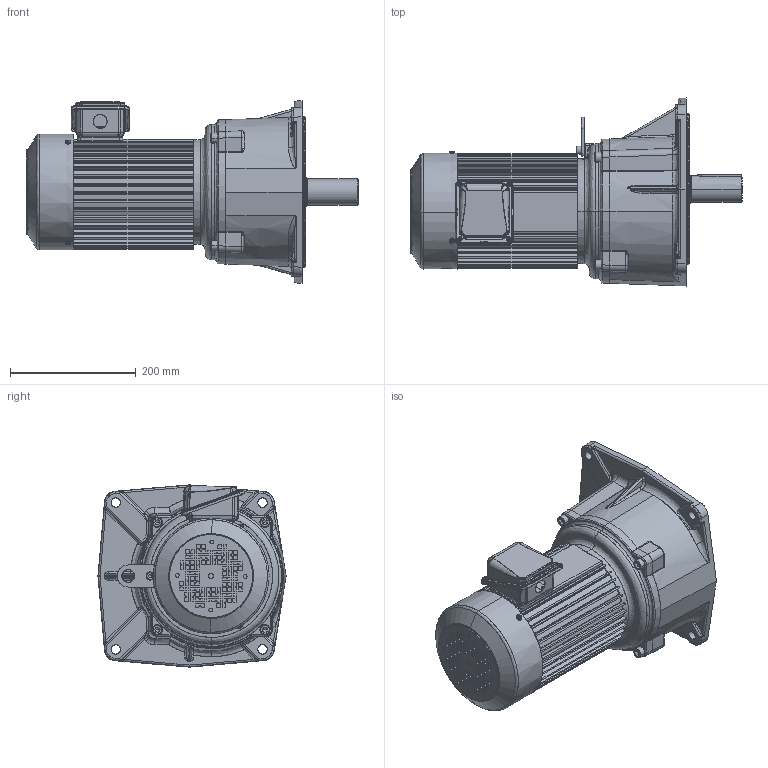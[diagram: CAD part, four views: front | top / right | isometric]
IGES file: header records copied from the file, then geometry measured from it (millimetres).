
Start section: SolidWorks IGES file using analytic representation for surfaces
Global section: file name: \\100.100.100.8\1_共有作業フォルダ\1-5_３Ｄデータ\solidworks\personal-folder\H.Nagayama\SGP1外形075~370\P1(3D)_075~370\igs\TMF2-15E-(30~80).IGS; native system: SolidWorks 2018; preprocessor: SolidWorks 2018; author: sigma-giken; date: 200806.152956; units: millimetre
Bounding box: 528 x 299 x 290 mm (x, y, z)
Surface area: 850449.8 mm2 (no closed solid volume)
Topology: 0 solids, 0 shells, 2429 faces, 26363 edges, 26288 vertices
Faces by surface type: bspline 1276, revolution 1153
